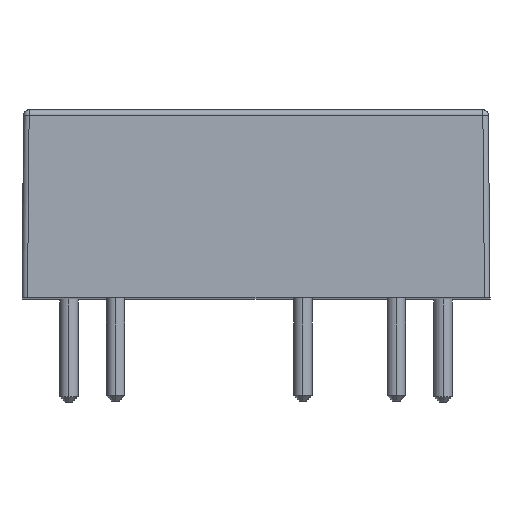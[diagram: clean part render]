
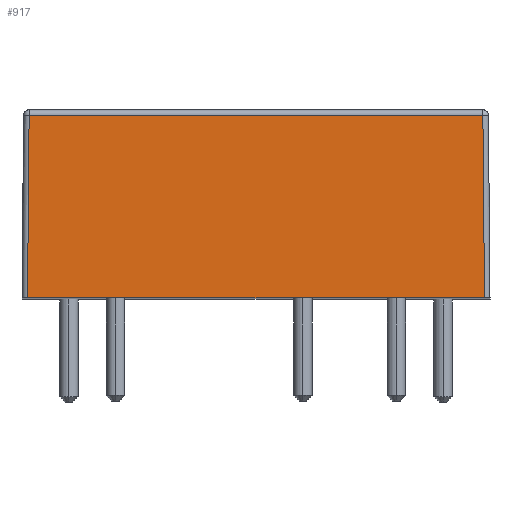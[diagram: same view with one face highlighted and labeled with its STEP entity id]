
A CAD part, top view. The second image highlights one B-rep face of the part: STEP entity #917.
In plain terms, the highlighted planar face has unit normal (0, 0.009, 1).
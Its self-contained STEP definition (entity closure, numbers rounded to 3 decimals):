
#7 = CARTESIAN_POINT ( 'NONE',  ( 12.398, 0.219, 20.298 ) ) ;
#80 = DIRECTION ( 'NONE',  ( -0.009, -1., 0.009 ) ) ;
#114 = ORIENTED_EDGE ( 'NONE', *, *, #1652, .T. ) ;
#194 = DIRECTION ( 'NONE',  ( 0., 0.009, 1. ) ) ;
#205 = EDGE_CURVE ( 'NONE', #331, #1344, #1731, .T. ) ;
#206 = LINE ( 'NONE', #7, #690 ) ;
#258 = VECTOR ( 'NONE', #672, 1000. ) ;
#276 = VECTOR ( 'NONE', #823, 1000. ) ;
#331 = VERTEX_POINT ( 'NONE', #1467 ) ;
#361 = EDGE_CURVE ( 'NONE', #1621, #331, #206, .T. ) ;
#387 = CARTESIAN_POINT ( 'NONE',  ( -12.7, 0., 20.3 ) ) ;
#498 = VECTOR ( 'NONE', #80, 1000. ) ;
#543 = LINE ( 'NONE', #648, #498 ) ;
#648 = CARTESIAN_POINT ( 'NONE',  ( -12.4, -0.003, 20.3 ) ) ;
#672 = DIRECTION ( 'NONE',  ( -1., 0., 0. ) ) ;
#687 = ORIENTED_EDGE ( 'NONE', *, *, #1267, .T. ) ;
#690 = VECTOR ( 'NONE', #1762, 1000. ) ;
#758 = CARTESIAN_POINT ( 'NONE',  ( -12.4, 0., 20.3 ) ) ;
#823 = DIRECTION ( 'NONE',  ( 1., 0., 0. ) ) ;
#833 = ORIENTED_EDGE ( 'NONE', *, *, #361, .T. ) ;
#901 = CARTESIAN_POINT ( 'NONE',  ( 12.4, 0., 20.3 ) ) ;
#917 = ADVANCED_FACE ( 'NONE', ( #1485 ), #1288, .T. ) ;
#948 = CARTESIAN_POINT ( 'NONE',  ( -12.314, 9.903, 20.214 ) ) ;
#952 = VERTEX_POINT ( 'NONE', #758 ) ;
#1022 = CARTESIAN_POINT ( 'NONE',  ( -12.7, 0., 20.3 ) ) ;
#1160 = DIRECTION ( 'NONE',  ( 0., -1., 0.009 ) ) ;
#1238 = AXIS2_PLACEMENT_3D ( 'NONE', #1022, #194, #1160 ) ;
#1241 = LINE ( 'NONE', #387, #276 ) ;
#1267 = EDGE_CURVE ( 'NONE', #952, #1621, #1241, .T. ) ;
#1288 = PLANE ( 'NONE',  #1238 ) ;
#1344 = VERTEX_POINT ( 'NONE', #948 ) ;
#1353 = CARTESIAN_POINT ( 'NONE',  ( -12.7, 9.903, 20.214 ) ) ;
#1467 = CARTESIAN_POINT ( 'NONE',  ( 12.314, 9.903, 20.214 ) ) ;
#1485 = FACE_OUTER_BOUND ( 'NONE', #1761, .T. ) ;
#1621 = VERTEX_POINT ( 'NONE', #901 ) ;
#1652 = EDGE_CURVE ( 'NONE', #1344, #952, #543, .T. ) ;
#1731 = LINE ( 'NONE', #1353, #258 ) ;
#1761 = EDGE_LOOP ( 'NONE', ( #687, #833, #1799, #114 ) ) ;
#1762 = DIRECTION ( 'NONE',  ( -0.009, 1., -0.009 ) ) ;
#1799 = ORIENTED_EDGE ( 'NONE', *, *, #205, .T. ) ;
